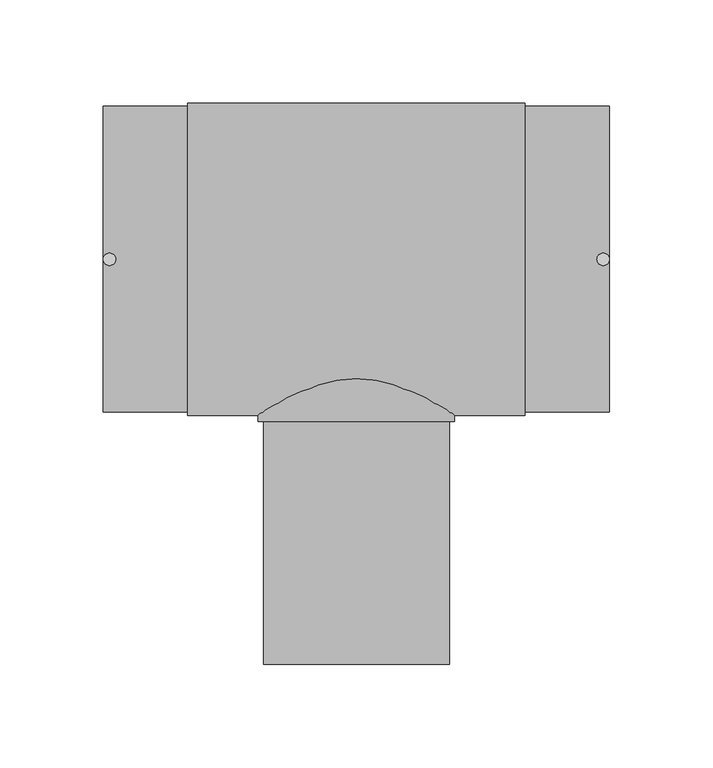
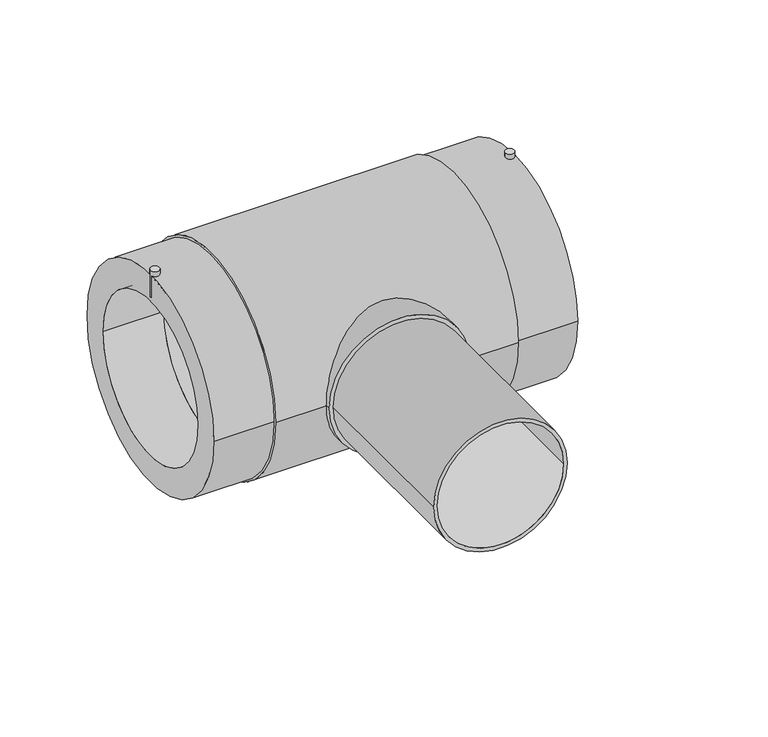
"""IFC4 building model written with IfcOpenShell, lengths in millimetres: pipe fitting geometry, EGB_VASEN_ PPR_Te electrosoldable WXRD300_Te reducida electrosoldable WXRD310 : Te electrosoldable."""

import ifcopenshell
import ifcopenshell.guid

model = None  # the IFC model being written
_history = None  # IfcOwnerHistory: only IFC2X3 demands one
_inside = {}  # id of a spatial element -> (the spatial element, [elements in it])
_under = {}  # id of a project, library or spatial element -> (it, [spatial elements below it])
_declared = {}  # id of a project -> (the project, [libraries it declares])
_typed = {}  # id of a type object -> (the type object, [elements of that type])
_made_of = {}  # id of a material, layer set ... -> (it, [elements and type objects made of it])


def new_model(schema):
    """Start an empty IFC model of exactly this schema.

    Asked for "IFC4X3", IfcOpenShell would pick the latest addendum, in which some entities
    have other attributes; the version numbers below select the first issue.
    IFC2X3 requires an IfcOwnerHistory on every rooted entity: one is made here for all.
    """
    global model, _history
    if schema == "IFC4X3":
        model = ifcopenshell.file(schema_version=(4, 3, 0, 0))
    else:
        model = ifcopenshell.file(schema=schema)
    _inside.clear()
    _under.clear()
    _declared.clear()
    _typed.clear()
    _made_of.clear()
    _history = None
    if model.schema == "IFC2X3":
        org = make("IfcOrganization", Name="unknown")
        user = make(
            "IfcPersonAndOrganization",
            ThePerson=make("IfcPerson", FamilyName="unknown"),
            TheOrganization=org,
        )
        app = make(
            "IfcApplication",
            ApplicationDeveloper=org,
            Version="unknown",
            ApplicationFullName="unknown",
            ApplicationIdentifier="unknown",
        )
        _history = make(
            "IfcOwnerHistory",
            OwningUser=user,
            OwningApplication=app,
            ChangeAction="ADDED",
            CreationDate=0,
        )
    return model


def make(cls, **values):
    """One entity of the class cls with the attributes given. An attribute that is None is left unset."""
    return model.create_entity(
        cls, **{name: value for name, value in values.items() if value is not None}
    )


def rooted(cls, **values):
    """An entity with a GlobalId (a new one), such as an element, a storey or a relation."""
    return make(cls, GlobalId=ifcopenshell.guid.new(), OwnerHistory=_history, **values)


def si_unit(unit_type, name, prefix=None):
    """IfcSIUnit, for example si_unit("LENGTHUNIT", "METRE", prefix="MILLI")."""
    return make("IfcSIUnit", UnitType=unit_type, Prefix=prefix, Name=name)


def assignment(units):
    """IfcUnitAssignment: the units of a project."""
    return None if units is None else make("IfcUnitAssignment", Units=units)


def point(xyz):
    """IfcCartesianPoint."""
    return None if xyz is None else make("IfcCartesianPoint", Coordinates=xyz)


def direction(xyz):
    """IfcDirection."""
    return None if xyz is None else make("IfcDirection", DirectionRatios=xyz)


def frame(location, z_axis=None, x_axis=None):
    """IfcAxis2Placement3D, a coordinate frame: its origin and axes. An axis left out is left unset."""
    return make(
        "IfcAxis2Placement3D",
        Location=point(location),
        Axis=direction(z_axis),
        RefDirection=direction(x_axis),
    )


def frame_2d(location, x_axis=None):
    """IfcAxis2Placement2D, a coordinate frame in the plane: its origin and x axis."""
    return make(
        "IfcAxis2Placement2D", Location=point(location), RefDirection=direction(x_axis)
    )


def origin():
    """The frame at (0, 0, 0) with its axes left unset."""
    return frame((0.0, 0.0, 0.0))


def origin_2d():
    """The frame at (0, 0) in the plane with its x axis left unset."""
    return frame_2d((0.0, 0.0))


def place(relative_to, where):
    """IfcLocalPlacement: puts the frame where relative to a parent placement (None: the world)."""
    return make(
        "IfcLocalPlacement", PlacementRelTo=relative_to, RelativePlacement=where
    )


def context(
    kind, dimensions, precision=None, world=None, true_north=None, identifier=None
):
    """IfcGeometricRepresentationContext, for example the 3D "Model" context."""
    return make(
        "IfcGeometricRepresentationContext",
        ContextIdentifier=identifier,
        ContextType=kind,
        CoordinateSpaceDimension=dimensions,
        Precision=precision,
        WorldCoordinateSystem=world,
        TrueNorth=true_north,
    )


def project(units=None, contexts=None):
    """IfcProject with its units and contexts."""
    return rooted(
        "IfcProject",
        Name="project",
        RepresentationContexts=contexts,
        UnitsInContext=assignment(units),
    )


def spatial(cls, under=None, at=None, **own):
    """A site, building, storey or space (cls), placed at a placement, below another one or the project."""
    s = rooted(cls, ObjectPlacement=at, **own)
    if under is not None:
        _under.setdefault(under.id(), (under, []))[1].append(s)
    return s


def circle_curve(where, radius):
    """IfcCircle in the frame where."""
    return make("IfcCircle", Position=where, Radius=radius)


def trimmed(basis, trim1, trim2, sense, master):
    """IfcTrimmedCurve: the piece of a basis curve between two trims."""
    return make(
        "IfcTrimmedCurve",
        BasisCurve=basis,
        Trim1=trim1,
        Trim2=trim2,
        SenseAgreement=sense,
        MasterRepresentation=master,
    )


def segment(curve, same_sense, transition):
    """IfcCompositeCurveSegment."""
    return make(
        "IfcCompositeCurveSegment",
        Transition=transition,
        SameSense=same_sense,
        ParentCurve=curve,
    )


def composite_curve(segments, self_intersect=None):
    """IfcCompositeCurve: segments joined end to end."""
    return make("IfcCompositeCurve", Segments=segments, SelfIntersect=self_intersect)


def outline(outer, holes=None, kind="AREA"):
    """IfcArbitraryClosedProfileDef: a profile drawn as a closed curve; with holes, ...WithVoids."""
    if holes is None:
        return make("IfcArbitraryClosedProfileDef", ProfileType=kind, OuterCurve=outer)
    return make(
        "IfcArbitraryProfileDefWithVoids",
        ProfileType=kind,
        OuterCurve=outer,
        InnerCurves=holes,
    )


def extrude(swept, where, along, depth):
    """IfcExtrudedAreaSolid: the profile swept, set in the frame where, extruded along a direction by depth."""
    return make(
        "IfcExtrudedAreaSolid",
        SweptArea=swept,
        Position=where,
        ExtrudedDirection=direction(along),
        Depth=depth,
    )


def shape(context_of_items, identifier, shape_type, items):
    """IfcShapeRepresentation: the items that make up one representation, for example the "Body"."""
    return make(
        "IfcShapeRepresentation",
        ContextOfItems=context_of_items,
        RepresentationIdentifier=identifier,
        RepresentationType=shape_type,
        Items=items,
    )


def source(mapping_origin, context_of_items, identifier, shape_type, items):
    """IfcRepresentationMap: a shape defined once, which mapped items show again and again."""
    return make(
        "IfcRepresentationMap",
        MappingOrigin=mapping_origin,
        MappedRepresentation=shape(context_of_items, identifier, shape_type, items),
    )


def transform(
    local_origin,
    x_axis=None,
    y_axis=None,
    z_axis=None,
    scale=None,
    scale2=None,
    scale3=None,
    uniform=True,
):
    """IfcCartesianTransformationOperator3D, or its non-uniform kind. x_axis, y_axis, z_axis: its Axis1, 2, 3."""
    if uniform:
        return make(
            "IfcCartesianTransformationOperator3D",
            Axis1=direction(x_axis),
            Axis2=direction(y_axis),
            LocalOrigin=point(local_origin),
            Scale=scale,
            Axis3=direction(z_axis),
        )
    return make(
        "IfcCartesianTransformationOperator3DnonUniform",
        Axis1=direction(x_axis),
        Axis2=direction(y_axis),
        LocalOrigin=point(local_origin),
        Scale=scale,
        Axis3=direction(z_axis),
        Scale2=scale2,
        Scale3=scale3,
    )


def mapped(mapping_source, mapping_target):
    """IfcMappedItem: shows the shape of a source again, moved by a transform."""
    return make(
        "IfcMappedItem", MappingSource=mapping_source, MappingTarget=mapping_target
    )


def made_of(thing, what):
    """Note that an element or type object is made of a material, layer set ...; save() writes the relation."""
    if what is not None:
        _made_of.setdefault(what.id(), (what, []))[1].append(thing)
    return thing


def element(
    cls,
    number,
    at=None,
    inside=None,
    cuts=None,
    type_object=None,
    material=None,
    context=None,
    identifier="Body",
    shape_type=None,
    held_by="IfcProductDefinitionShape",
    body=None,
    shapes=None,
    **own,
):
    """One element of the class cls, such as IfcWall. Its Tag is "e" and its number.

    at: its placement. inside: the storey or other place that contains it. cuts: it is an
    opening in that element (IfcRelVoidsElement). A single representation is given by context,
    identifier, shape_type and body (its items); several are given by shapes. held_by: the class
    of the entity that holds the representations. save() writes the other relations.
    """
    e = rooted(cls, Tag="e%d" % number, ObjectPlacement=at, **own)
    if body is not None:
        shapes = [shape(context, identifier, shape_type, body)]
    if shapes is not None:
        e.Representation = make(held_by, Representations=shapes)
    if inside is not None:
        _inside.setdefault(inside.id(), (inside, []))[1].append(e)
    if cuts is not None:
        rooted(
            "IfcRelVoidsElement", RelatingBuildingElement=cuts, RelatedOpeningElement=e
        )
    if type_object is not None:
        _typed.setdefault(type_object.id(), (type_object, []))[1].append(e)
    return made_of(e, material)


def aggregate(whole, parts):
    """IfcRelAggregates: a whole, such as a stair, and the parts it consists of."""
    return rooted("IfcRelAggregates", RelatingObject=whole, RelatedObjects=parts)


def save(model, path):
    """Write the relations noted so far, then the file.

    IfcRelAggregates (storeys below a building ...), IfcRelContainedInSpatialStructure (elements
    in a storey), IfcRelDefinesByType, IfcRelAssociatesMaterial and IfcRelDeclares: one each for
    every whole, place, type object, material and project.
    """
    for whole, parts in _under.values():
        aggregate(whole, parts)
    for where, things in _inside.values():
        rooted(
            "IfcRelContainedInSpatialStructure",
            RelatedElements=things,
            RelatingStructure=where,
        )
    for kind, things in _typed.values():
        rooted("IfcRelDefinesByType", RelatedObjects=things, RelatingType=kind)
    for what, things in _made_of.values():
        rooted("IfcRelAssociatesMaterial", RelatedObjects=things, RelatingMaterial=what)
    for by, libraries in _declared.values():
        rooted("IfcRelDeclares", RelatingContext=by, RelatedDefinitions=libraries)
    model.write(path)


def pipe_fitting_88968317(model_context):
    return source(origin(), model_context, "Body", "SweptSolid", [
        extrude(outline(composite_curve([segment(trimmed(circle_curve(frame_2d((-119.5, 0.0)), 3.0), [point((-122.5, 0.0))], [point((-116.5, 0.0))], False, "CARTESIAN"), True, "CONTINUOUS"), segment(trimmed(circle_curve(frame_2d((-119.5, 0.0)), 3.0), [point((-116.5, 0.0))], [point((-122.5, 0.0))], False, "CARTESIAN"), True, "CONTINUOUS")], self_intersect=False)), frame((0.0, 0.0, 58.0), z_axis=(0.0, 0.0, 1.0), x_axis=(1.0, 0.0, 0.0)), (0.0, 0.0, 1.0), 19.0),
        extrude(outline(composite_curve([segment(trimmed(circle_curve(frame_2d((119.5, 0.0)), 3.0), [point((116.5, 0.0))], [point((122.5, 0.0))], False, "CARTESIAN"), True, "CONTINUOUS"), segment(trimmed(circle_curve(frame_2d((119.5, 0.0)), 3.0), [point((122.5, 0.0))], [point((116.5, 0.0))], False, "CARTESIAN"), True, "CONTINUOUS")], self_intersect=False)), frame((0.0, 0.0, 58.0), z_axis=(0.0, 0.0, 1.0), x_axis=(1.0, 0.0, 0.0)), (0.0, 0.0, 1.0), 19.0),
        extrude(outline(composite_curve([segment(trimmed(circle_curve(origin_2d(), 47.5), [point((0.0, 47.5))], [point((0.0, -47.5))], False, "CARTESIAN"), True, "CONTINUOUS"), segment(trimmed(circle_curve(origin_2d(), 47.5), [point((0.0, -47.5))], [point((0.0, 47.5))], False, "CARTESIAN"), True, "CONTINUOUS")], self_intersect=False)), frame((0.0, -78.4, 0.0), z_axis=(0.0, 1.0, 0.0), x_axis=(0.0, 0.0, 1.0)), (0.0, 0.0, 1.0), 78.4),
        extrude(outline(composite_curve([segment(trimmed(circle_curve(origin_2d(), 45.0), [point((0.0, -45.0))], [point((0.0, 45.0))], False, "CARTESIAN"), True, "CONTINUOUS"), segment(trimmed(circle_curve(origin_2d(), 45.0), [point((0.0, 45.0))], [point((0.0, -45.0))], False, "CARTESIAN"), True, "CONTINUOUS")], self_intersect=False), holes=[composite_curve([segment(trimmed(circle_curve(origin_2d(), 42.5), [point((0.0, -42.5))], [point((0.0, 42.5))], True, "CARTESIAN"), True, "CONTINUOUS"), segment(trimmed(circle_curve(origin_2d(), 42.5), [point((0.0, 42.5))], [point((0.0, -42.5))], True, "CARTESIAN"), True, "CONTINUOUS")], self_intersect=False)]), frame((0.0, -196.0, 0.0), z_axis=(0.0, 1.0, 0.0), x_axis=(0.0, 0.0, 1.0)), (0.0, 0.0, 1.0), 117.6),
        extrude(outline(composite_curve([segment(trimmed(circle_curve(origin_2d(), 75.5), [point((-75.5, 0.0))], [point((75.5, 0.0))], False, "CARTESIAN"), True, "CONTINUOUS"), segment(trimmed(circle_curve(origin_2d(), 75.5), [point((75.5, 0.0))], [point((-75.5, 0.0))], False, "CARTESIAN"), True, "CONTINUOUS")], self_intersect=False), holes=[composite_curve([segment(trimmed(circle_curve(origin_2d(), 55.0), [point((-55.0, 0.0))], [point((55.0, 0.0))], True, "CARTESIAN"), True, "CONTINUOUS"), segment(trimmed(circle_curve(origin_2d(), 55.0), [point((55.0, 0.0))], [point((-55.0, 0.0))], True, "CARTESIAN"), True, "CONTINUOUS")], self_intersect=False)]), frame((-81.6666667, 0.0, 0.0), z_axis=(1.0, 0.0, 0.0), x_axis=(0.0, 1.0, 0.0)), (0.0, 0.0, 1.0), 163.3333333),
        extrude(outline(composite_curve([segment(trimmed(circle_curve(origin_2d(), 74.0), [point((-74.0, 0.0))], [point((74.0, 0.0))], False, "CARTESIAN"), True, "CONTINUOUS"), segment(trimmed(circle_curve(origin_2d(), 74.0), [point((74.0, 0.0))], [point((-74.0, 0.0))], False, "CARTESIAN"), True, "CONTINUOUS")], self_intersect=False), holes=[composite_curve([segment(trimmed(circle_curve(origin_2d(), 55.0), [point((-55.0, 0.0))], [point((55.0, 0.0))], True, "CARTESIAN"), True, "CONTINUOUS"), segment(trimmed(circle_curve(origin_2d(), 55.0), [point((55.0, 0.0))], [point((-55.0, 0.0))], True, "CARTESIAN"), True, "CONTINUOUS")], self_intersect=False)]), frame((-122.5, 0.0, 0.0), z_axis=(1.0, 0.0, 0.0), x_axis=(0.0, 1.0, 0.0)), (0.0, 0.0, 1.0), 245.0),
    ])


if __name__ == "__main__":
    model = new_model("IFC4")
    model_context = context("Model", 3, world=origin())
    ifc_project = project(units=[si_unit("LENGTHUNIT", "METRE", prefix="MILLI")], contexts=[model_context])
    site = spatial("IfcSite", under=ifc_project)
    building = spatial("IfcBuilding", under=site)
    placement = place(None, origin())
    pipe_fitting_shape = pipe_fitting_88968317(model_context)
    element("IfcPipeFitting", 1, ObjectType="EGB_VASEN_ PPR_Te electrosoldable WXRD300_Te reducida electrosoldable WXRD310 : Te electrosoldable", at=placement, inside=building, context=model_context, shape_type="MappedRepresentation", body=[
        mapped(pipe_fitting_shape, transform((0.0, 0.0, 0.0), x_axis=(1.0, 0.0, 0.0), y_axis=(0.0, 1.0, 0.0), z_axis=(0.0, 0.0, 1.0))),
    ])
    save(model, "model.ifc")
